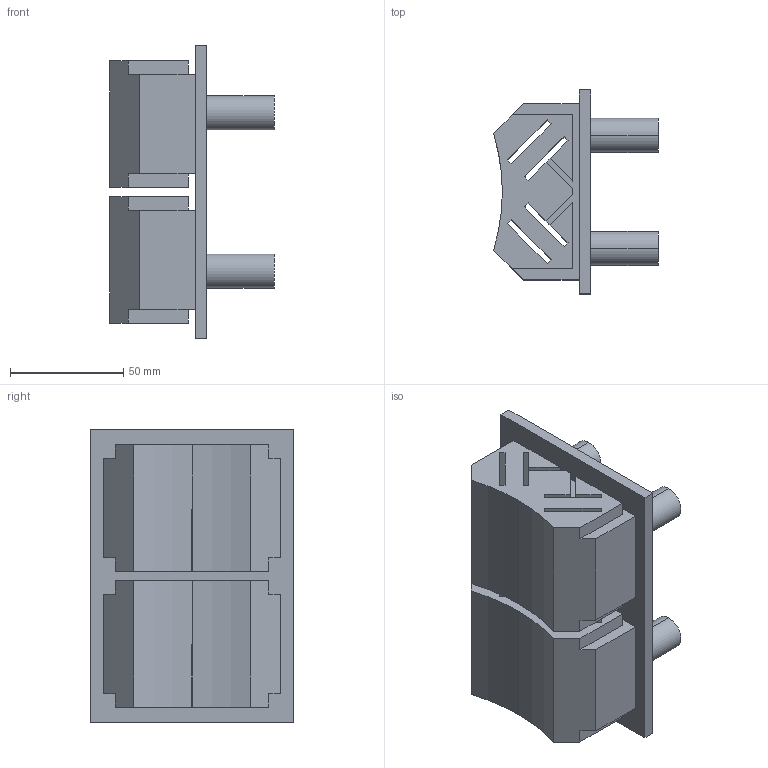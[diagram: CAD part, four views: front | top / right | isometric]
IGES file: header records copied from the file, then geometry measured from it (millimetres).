
Start section: IMSI TurboCAD v14.0
Global section: author: NULL; organization: NULL; date: 20231227.191445; units: millimetre
Bounding box: 72.86 x 90 x 130 mm (x, y, z)
Surface area: 76742.2 mm2 (no closed solid volume)
Topology: 0 solids, 0 shells, 106 faces, 636 edges, 636 vertices
Faces by surface type: extrusion 94, revolution 12
